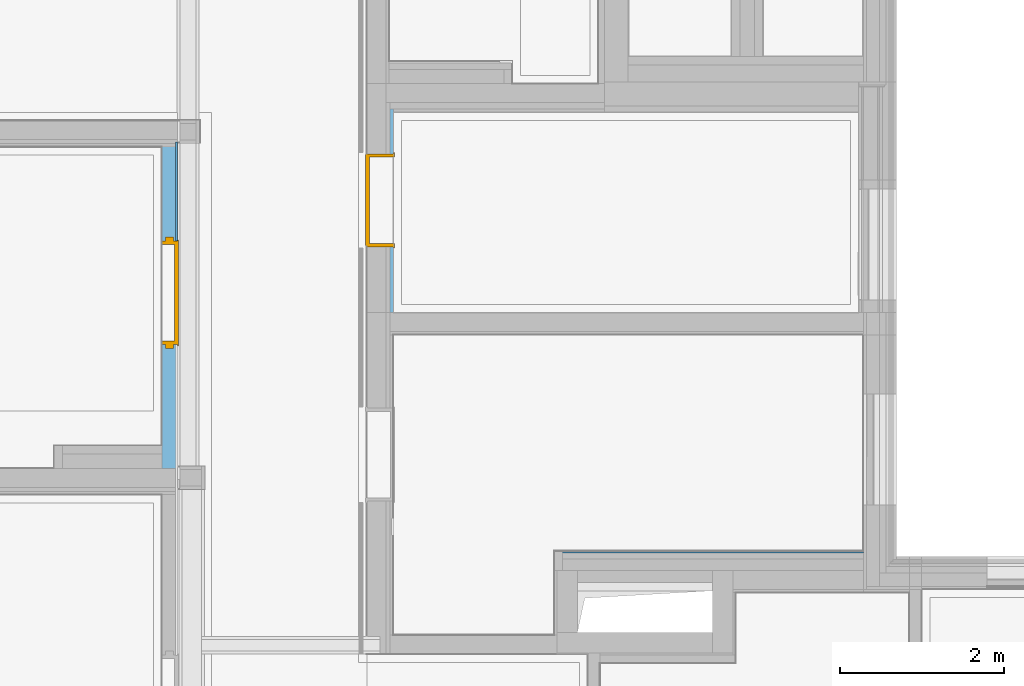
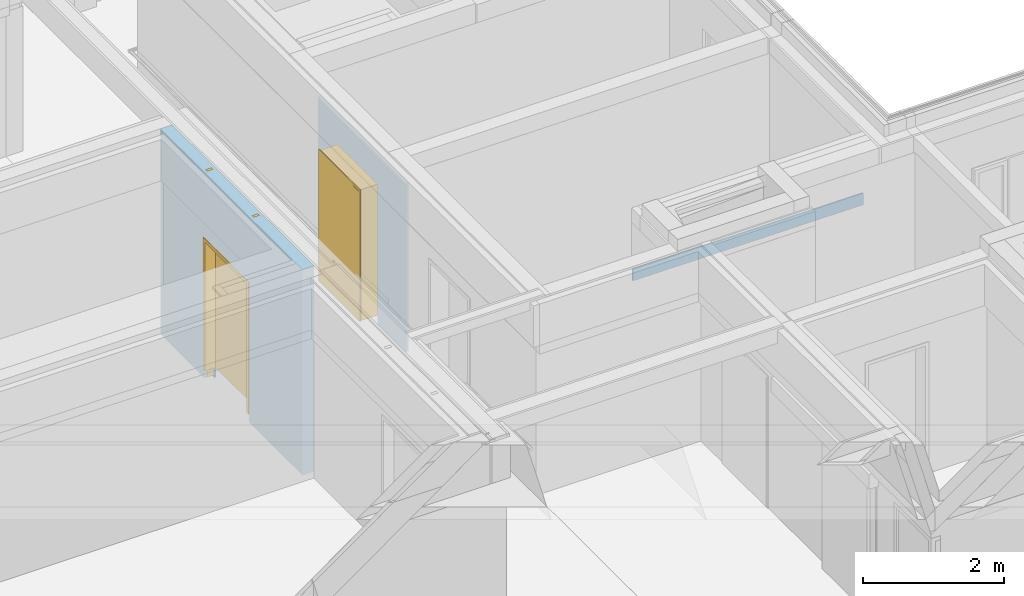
# One storey, part 89 of 222: 2 doors, 2 walls, 2 openings, plus 2 elements that do not belong to this part.
"""IFC4 building model written with IfcOpenShell, lengths in metres."""

from ifc_helpers import new_model, entity, si_unit, converted_unit, derived_unit, frame, frame_2d, origin, origin_with_axes, place, context, subcontext, project, spatial, polyline, rectangle, outline, extrude, faceted_brep, source, transform, mapped, material, type_object, element, fill, save


model = new_model("IFC4")

# Units and contexts
model_context = context("Model", 3, precision=1e-05, world=origin())
body_context = subcontext(model_context, "Body", "Model", "MODEL_VIEW")
ifc_project = project(units=[si_unit("LENGTHUNIT", "METRE"), si_unit("AREAUNIT", "SQUARE_METRE"), si_unit("VOLUMEUNIT", "CUBIC_METRE"), si_unit("MASSUNIT", "GRAM", prefix="KILO"), converted_unit("PLANEANGLEUNIT", "DEGREE", entity("IfcPlaneAngleMeasure", 0.0174532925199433), si_unit("PLANEANGLEUNIT", "RADIAN"), dimensions=[0, 0, 0, 0, 0, 0, 0]), derived_unit("THERMALTRANSMITTANCEUNIT", [(si_unit("POWERUNIT", "WATT"), 1), (si_unit("THERMODYNAMICTEMPERATUREUNIT", "KELVIN"), -1), (si_unit("LENGTHUNIT", "METRE"), -2)]), derived_unit("VOLUMETRICFLOWRATEUNIT", [(si_unit("LENGTHUNIT", "METRE"), 3), (converted_unit("TIMEUNIT", "hour", entity("IfcTimeMeasure", 3600.0), si_unit("TIMEUNIT", "SECOND"), dimensions=[0, 0, 1, 0, 0, 0, 0]), -1), (si_unit("LENGTHUNIT", "METRE"), -1)])], contexts=[model_context])

# Site, building, storey
site_placement = place(None, origin())
site = spatial("IfcSite", under=ifc_project, at=site_placement, Name="Psychiatrie Neubau Wunstorf", CompositionType="ELEMENT")
building_placement = place(site_placement, origin())
building = spatial("IfcBuilding", under=site, at=building_placement, Name="Neubau H2 Stationsgebäude", CompositionType="ELEMENT")
storey_placement = place(building_placement, frame((0.0, 0.0, 3.6)))
storey = spatial("IfcBuildingStorey", under=building, at=storey_placement, Name="H2 Ebene +1", CompositionType="ELEMENT", Elevation=3.6)

# Wall, opening, door
ifc_material_1 = material(Name="WI-LB")
wall_1_placement = place(storey_placement, frame((38.2045, 13.4894966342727, 0.0), z_axis=(0.0, 0.0, 1.0), x_axis=(-2.92735065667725e-15, 1.0, 0.0)))
wall_1 = element("IfcWall", 1, at=wall_1_placement, inside=storey, material=ifc_material_1, context=body_context, shape_type="SweptSolid", body=[
    extrude(rectangle(XDim=2.48550941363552, YDim=0.04, at=frame_2d((1.24275470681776, 0.02), x_axis=(1.0, 0.0))), origin_with_axes(), (0.0, 0.0, 1.0), 2.9),
])
opening_1_placement = place(wall_1_placement, frame((1.93550336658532, 0.0400000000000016, 0.0), z_axis=(-5.6843418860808e-15, -1.0, 0.0), x_axis=(0.0, 0.0, 1.0)))
opening_1 = element("IfcOpeningElement", 2, at=opening_1_placement, cuts=wall_1, Name="Türöffnung", ObjectType="Opening", context=body_context, shape_type="SweptSolid", body=[
    extrude(outline(polyline([(2.41, 1.135), (2.41, 0.0), (0.0, 0.0), (0.0, 1.135), (2.41, 1.135)])), origin_with_axes(), (0.0, 0.0, 1.0), 0.04),
])
ifc_material_2 = material(Name="TI-1F-UZ-D")
door_type_1 = type_object("IfcDoorType", Name="SMT", OperationType="SINGLE_SWING_RIGHT", ParameterTakesPrecedence=False, PredefinedType="DOOR")
shared_shape_1 = source(origin_with_axes(), body_context, "Body", "Brep", [
    faceted_brep([(1.135, -0.0149999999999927, 2.41), (1.135, -0.0149999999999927, 0.15), (1.095, -0.0149999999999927, 0.15), (1.095, -0.0149999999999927, 2.41), (1.135, 0.337000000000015, 0.15), (1.135, 0.337000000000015, 2.41), (1.095, 0.337000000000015, 2.41), (1.095, 0.337000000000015, 0.15)], [[[0, 1, 2, 3]], [[4, 5, 6, 7]], [[1, 0, 5, 4]], [[2, 1, 4, 7]], [[3, 2, 7, 6]], [[0, 3, 6, 5]]], orient=[[False], [False], [False], [False], [False], [False]]),
    faceted_brep([(1.135, -0.0149999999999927, 2.425), (1.15, -0.0149999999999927, 2.425), (1.15, -0.0149999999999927, 0.15), (1.135, -0.0149999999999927, 0.15), (1.135, 0.0, 0.15), (1.15, 0.0, 0.15), (1.15, 0.0, 2.425), (1.135, 0.0, 2.425)], [[[0, 1, 2, 3]], [[4, 5, 6, 7]], [[3, 4, 7, 0]], [[2, 5, 4, 3]], [[1, 6, 5, 2]], [[0, 7, 6, 1]]], orient=[[False], [False], [False], [False], [False], [False]]),
    faceted_brep([(1.135, 0.322000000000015, 2.425), (1.15, 0.322000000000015, 2.425), (1.15, 0.322000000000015, 0.15), (1.135, 0.322000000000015, 0.15), (1.135, 0.337000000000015, 0.15), (1.15, 0.337000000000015, 0.15), (1.15, 0.337000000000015, 2.425), (1.135, 0.337000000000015, 2.425)], [[[0, 1, 2, 3]], [[4, 5, 6, 7]], [[3, 4, 7, 0]], [[2, 5, 4, 3]], [[1, 6, 5, 2]], [[0, 7, 6, 1]]], orient=[[False], [False], [False], [False], [False], [False]]),
    faceted_brep([(0.0399999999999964, -0.0149999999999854, 2.41), (0.0399999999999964, -0.0149999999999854, 0.15), (0.0, -0.0149999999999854, 0.15), (0.0, -0.0149999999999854, 2.41), (0.04, 0.337000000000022, 0.15), (0.04, 0.337000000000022, 2.41), (0.0, 0.337000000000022, 2.41), (0.0, 0.337000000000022, 0.15)], [[[0, 1, 2, 3]], [[4, 5, 6, 7]], [[1, 0, 5, 4]], [[2, 1, 4, 7]], [[3, 2, 7, 6]], [[0, 3, 6, 5]]], orient=[[False], [False], [False], [False], [False], [False]]),
    faceted_brep([(0.0, -0.0149999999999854, 2.425), (0.0, -0.0149999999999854, 0.15), (-0.0150000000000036, -0.0149999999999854, 0.15), (-0.0150000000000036, -0.0149999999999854, 2.425), (0.0, 0.0, 0.15), (0.0, 0.0, 2.425), (-0.0150000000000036, 0.0, 2.425), (-0.0150000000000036, 0.0, 0.15)], [[[0, 1, 2, 3]], [[4, 5, 6, 7]], [[1, 0, 5, 4]], [[2, 1, 4, 7]], [[3, 2, 7, 6]], [[0, 3, 6, 5]]], orient=[[False], [False], [False], [False], [False], [False]]),
    faceted_brep([(0.0, 0.322000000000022, 2.425), (0.0, 0.322000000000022, 0.15), (-0.0150000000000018, 0.322000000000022, 0.15), (-0.0150000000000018, 0.322000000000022, 2.425), (0.0, 0.337000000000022, 0.15), (0.0, 0.337000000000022, 2.425), (-0.015, 0.337000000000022, 2.425), (-0.015, 0.337000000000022, 0.15)], [[[0, 1, 2, 3]], [[4, 5, 6, 7]], [[1, 0, 5, 4]], [[2, 1, 4, 7]], [[3, 2, 7, 6]], [[0, 3, 6, 5]]], orient=[[False], [False], [False], [False], [False], [False]]),
    faceted_brep([(1.095, -0.0149999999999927, 2.41), (1.095, -0.0149999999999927, 2.37), (0.0399999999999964, -0.0149999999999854, 2.37), (0.0399999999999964, -0.0149999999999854, 2.41), (1.095, 0.337000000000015, 2.37), (1.095, 0.337000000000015, 2.41), (0.04, 0.337000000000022, 2.41), (0.04, 0.337000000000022, 2.37)], [[[0, 1, 2, 3]], [[4, 5, 6, 7]], [[1, 0, 5, 4]], [[2, 1, 4, 7]], [[3, 2, 7, 6]], [[0, 3, 6, 5]]], orient=[[False], [False], [False], [False], [False], [False]]),
    faceted_brep([(1.135, -0.0149999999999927, 2.425), (1.135, -0.0149999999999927, 2.41), (0.0, -0.0149999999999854, 2.41), (0.0, -0.0149999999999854, 2.425), (1.135, 0.0, 2.41), (1.135, 0.0, 2.425), (0.0, 0.0, 2.425), (0.0, 0.0, 2.41)], [[[0, 1, 2, 3]], [[4, 5, 6, 7]], [[1, 0, 5, 4]], [[2, 1, 4, 7]], [[3, 2, 7, 6]], [[0, 3, 6, 5]]], orient=[[False], [False], [False], [False], [False], [False]]),
    faceted_brep([(1.135, 0.322000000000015, 2.425), (1.135, 0.322000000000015, 2.41), (0.0, 0.322000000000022, 2.41), (0.0, 0.322000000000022, 2.425), (1.135, 0.337000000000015, 2.41), (1.135, 0.337000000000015, 2.425), (0.0, 0.337000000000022, 2.425), (0.0, 0.337000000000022, 2.41)], [[[0, 1, 2, 3]], [[4, 5, 6, 7]], [[1, 0, 5, 4]], [[2, 1, 4, 7]], [[3, 2, 7, 6]], [[0, 3, 6, 5]]], orient=[[False], [False], [False], [False], [False], [False]]),
    faceted_brep([(1.11, 0.288000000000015, 2.385), (1.11, 0.288000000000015, 0.15), (0.0249999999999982, 0.288000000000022, 0.15), (0.0249999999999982, 0.288000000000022, 2.385), (1.11, 0.338000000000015, 0.15), (1.11, 0.338000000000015, 2.385), (0.025, 0.338000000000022, 2.385), (0.025, 0.338000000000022, 0.15)], [[[0, 1, 2, 3]], [[4, 5, 6, 7]], [[1, 0, 5, 4]], [[2, 1, 4, 7]], [[3, 2, 7, 6]], [[0, 3, 6, 5]]], orient=[[False], [False], [False], [False], [False], [False]]),
])
door_1_placement = place(opening_1_placement, frame((0.0, 1.135, 0.0400000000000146), z_axis=(1.0, 0.0, 0.0), x_axis=(0.0, -1.0, -9.16752657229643e-15)))
door_1 = element("IfcDoor", 3, at=door_1_placement, inside=storey, type_object=door_type_1, material=ifc_material_2, Name="SMT", OverallHeight=2.41, OverallWidth=1.135, context=body_context, shape_type="MappedRepresentation", body=[
    mapped(shared_shape_1, transform((0.0, 0.0, 0.0), x_axis=(1.0, 0.0, 0.0), y_axis=(0.0, 1.0, 0.0), z_axis=(0.0, 0.0, 1.0), scale=1.0)),
])
fill(opening_1, door_1)

# Wall
wall_2_placement = place(storey_placement, frame((40.1790000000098, 10.5559937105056, 2.3)))
element("IfcWall", 4, at=wall_2_placement, inside=storey, Name="WV 1.1", context=body_context, shape_type="Brep", body=[
    faceted_brep([(3.76, 0.0, 0.0), (3.76, 0.025, 0.0), (0.0, 0.0249999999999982, 0.0), (0.0, 0.0, 0.0), (3.76, 0.025, 0.2), (3.76, 0.0, 0.2), (0.0, 0.0, 0.2), (0.0, 0.0249999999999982, 0.2)], [[[0, 1, 2, 3]], [[4, 5, 6, 7]], [[1, 0, 5, 4]], [[2, 1, 4, 7]], [[3, 2, 7, 6]], [[0, 3, 6, 5]]], orient=[[False], [False], [False], [False], [False], [False]]),
])

# Wall, opening, door
ifc_material_3 = material(Name="WI-LB")
wall_3_placement = place(storey_placement, frame((35.57, 11.589557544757, 0.0), z_axis=(0.0, 0.0, 1.0), x_axis=(0.0, 1.0, 0.0)))
wall_3 = element("IfcWall", 5, at=wall_3_placement, inside=storey, material=ifc_material_3, context=body_context, shape_type="SweptSolid", body=[
    extrude(rectangle(XDim=4.01094154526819, YDim=0.19, at=frame_2d((2.0054707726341, 0.095), x_axis=(1.0, 0.0))), origin_with_axes(), (0.0, 0.0, 1.0), 3.55),
])
opening_2_placement = place(wall_3_placement, frame((2.77044245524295, 0.19, 0.0), z_axis=(0.0, -1.0, 0.0), x_axis=(0.0, 0.0, 1.0)))
opening_2 = element("IfcOpeningElement", 6, at=opening_2_placement, cuts=wall_3, Name="Türöffnung", ObjectType="Opening", context=body_context, shape_type="SweptSolid", body=[
    extrude(outline(polyline([(2.41, 1.26), (2.41, 0.0), (0.0, 0.0), (0.0, 1.26), (2.41, 1.26)])), origin_with_axes(), (0.0, 0.0, 1.0), 0.19),
])
ifc_material_4 = material(Name="TI-1F-UZ-D")
door_type_2 = type_object("IfcDoorType", Name="SMT", OperationType="SINGLE_SWING_RIGHT", ParameterTakesPrecedence=False, PredefinedType="DOOR")
shared_shape_2 = source(origin_with_axes(), body_context, "Body", "Brep", [
    faceted_brep([(-0.0499999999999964, 0.0449999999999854, 0.0), (0.0, 0.0449999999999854, 0.0), (0.0, 0.144999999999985, 0.0), (-0.0499999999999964, 0.144999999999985, 0.0), (-0.0499999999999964, 0.144999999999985, 3.55), (0.0, 0.144999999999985, 3.55), (0.0, 0.0449999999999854, 3.55), (-0.0499999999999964, 0.0449999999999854, 3.55)], [[[0, 1, 2, 3]], [[4, 5, 6, 7]], [[3, 4, 7, 0]], [[2, 5, 4, 3]], [[1, 6, 5, 2]], [[0, 7, 6, 1]]], orient=[[False], [False], [False], [False], [False], [False]]),
    faceted_brep([(1.26, 0.0449999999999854, 0.0), (1.31, 0.0449999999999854, 0.0), (1.31, 0.144999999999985, 0.0), (1.26, 0.144999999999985, 0.0), (1.26, 0.144999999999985, 3.55), (1.31, 0.144999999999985, 3.55), (1.31, 0.0449999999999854, 3.55), (1.26, 0.0449999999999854, 3.55)], [[[0, 1, 2, 3]], [[4, 5, 6, 7]], [[3, 4, 7, 0]], [[2, 5, 4, 3]], [[1, 6, 5, 2]], [[0, 7, 6, 1]]], orient=[[False], [False], [False], [False], [False], [False]]),
    faceted_brep([(0.0, 0.0449999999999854, 2.41), (1.26, 0.0449999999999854, 2.41), (1.26, 0.144999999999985, 2.41), (0.0, 0.144999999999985, 2.41), (0.0, 0.144999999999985, 2.46), (1.26, 0.144999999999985, 2.46), (1.26, 0.0449999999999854, 2.46), (0.0, 0.0449999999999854, 2.46)], [[[0, 1, 2, 3]], [[4, 5, 6, 7]], [[3, 4, 7, 0]], [[2, 5, 4, 3]], [[1, 6, 5, 2]], [[0, 7, 6, 1]]], orient=[[False], [False], [False], [False], [False], [False]]),
])
shared_shape_3 = source(origin_with_axes(), body_context, "Body", "Brep", [
    faceted_brep([(1.26, -0.0150000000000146, 2.41), (1.26, -0.0150000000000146, 0.15), (1.22, -0.0150000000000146, 0.15), (1.22, -0.0150000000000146, 2.41), (1.26, 0.204999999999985, 0.15), (1.26, 0.204999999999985, 2.41), (1.22, 0.204999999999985, 2.41), (1.22, 0.204999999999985, 0.15)], [[[0, 1, 2, 3]], [[4, 5, 6, 7]], [[1, 0, 5, 4]], [[2, 1, 4, 7]], [[3, 2, 7, 6]], [[0, 3, 6, 5]]], orient=[[False], [False], [False], [False], [False], [False]]),
    faceted_brep([(1.26, -0.0150000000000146, 2.425), (1.275, -0.0150000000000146, 2.425), (1.275, -0.0150000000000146, 0.15), (1.26, -0.0150000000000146, 0.15), (1.26, 0.0, 0.15), (1.275, 0.0, 0.15), (1.275, 0.0, 2.425), (1.26, 0.0, 2.425)], [[[0, 1, 2, 3]], [[4, 5, 6, 7]], [[3, 4, 7, 0]], [[2, 5, 4, 3]], [[1, 6, 5, 2]], [[0, 7, 6, 1]]], orient=[[False], [False], [False], [False], [False], [False]]),
    faceted_brep([(1.26, 0.189999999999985, 2.425), (1.275, 0.189999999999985, 2.425), (1.275, 0.189999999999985, 0.15), (1.26, 0.189999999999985, 0.15), (1.26, 0.204999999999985, 0.15), (1.275, 0.204999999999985, 0.15), (1.275, 0.204999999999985, 2.425), (1.26, 0.204999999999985, 2.425)], [[[0, 1, 2, 3]], [[4, 5, 6, 7]], [[3, 4, 7, 0]], [[2, 5, 4, 3]], [[1, 6, 5, 2]], [[0, 7, 6, 1]]], orient=[[False], [False], [False], [False], [False], [False]]),
    faceted_brep([(0.0400000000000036, -0.0150000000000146, 2.41), (0.0400000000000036, -0.0150000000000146, 0.15), (0.0, -0.0150000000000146, 0.15), (0.0, -0.0150000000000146, 2.41), (0.0400000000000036, 0.204999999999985, 0.15), (0.0400000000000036, 0.204999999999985, 2.41), (0.0, 0.204999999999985, 2.41), (0.0, 0.204999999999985, 0.15)], [[[0, 1, 2, 3]], [[4, 5, 6, 7]], [[1, 0, 5, 4]], [[2, 1, 4, 7]], [[3, 2, 7, 6]], [[0, 3, 6, 5]]], orient=[[False], [False], [False], [False], [False], [False]]),
    faceted_brep([(0.0, -0.0150000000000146, 2.425), (0.0, -0.0150000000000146, 0.15), (-0.0149999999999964, -0.0150000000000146, 0.15), (-0.0149999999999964, -0.0150000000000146, 2.425), (0.0, 0.0, 0.15), (0.0, 0.0, 2.425), (-0.0149999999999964, 0.0, 2.425), (-0.0149999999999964, 0.0, 0.15)], [[[0, 1, 2, 3]], [[4, 5, 6, 7]], [[1, 0, 5, 4]], [[2, 1, 4, 7]], [[3, 2, 7, 6]], [[0, 3, 6, 5]]], orient=[[False], [False], [False], [False], [False], [False]]),
    faceted_brep([(0.0, 0.189999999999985, 2.425), (0.0, 0.189999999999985, 0.15), (-0.0149999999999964, 0.189999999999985, 0.15), (-0.0149999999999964, 0.189999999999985, 2.425), (0.0, 0.204999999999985, 0.15), (0.0, 0.204999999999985, 2.425), (-0.0149999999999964, 0.204999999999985, 2.425), (-0.0149999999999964, 0.204999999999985, 0.15)], [[[0, 1, 2, 3]], [[4, 5, 6, 7]], [[1, 0, 5, 4]], [[2, 1, 4, 7]], [[3, 2, 7, 6]], [[0, 3, 6, 5]]], orient=[[False], [False], [False], [False], [False], [False]]),
    faceted_brep([(1.22, -0.0150000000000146, 2.41), (1.22, -0.0150000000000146, 2.37), (0.0400000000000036, -0.0150000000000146, 2.37), (0.0400000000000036, -0.0150000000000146, 2.41), (1.22, 0.204999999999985, 2.37), (1.22, 0.204999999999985, 2.41), (0.0400000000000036, 0.204999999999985, 2.41), (0.0400000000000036, 0.204999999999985, 2.37)], [[[0, 1, 2, 3]], [[4, 5, 6, 7]], [[1, 0, 5, 4]], [[2, 1, 4, 7]], [[3, 2, 7, 6]], [[0, 3, 6, 5]]], orient=[[False], [False], [False], [False], [False], [False]]),
    faceted_brep([(1.26, -0.0150000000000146, 2.425), (1.26, -0.0150000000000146, 2.41), (0.0, -0.0150000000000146, 2.41), (0.0, -0.0150000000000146, 2.425), (1.26, 0.0, 2.41), (1.26, 0.0, 2.425), (0.0, 0.0, 2.425), (0.0, 0.0, 2.41)], [[[0, 1, 2, 3]], [[4, 5, 6, 7]], [[1, 0, 5, 4]], [[2, 1, 4, 7]], [[3, 2, 7, 6]], [[0, 3, 6, 5]]], orient=[[False], [False], [False], [False], [False], [False]]),
    faceted_brep([(1.26, 0.189999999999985, 2.425), (1.26, 0.189999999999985, 2.41), (0.0, 0.189999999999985, 2.41), (0.0, 0.189999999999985, 2.425), (1.26, 0.204999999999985, 2.41), (1.26, 0.204999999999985, 2.425), (0.0, 0.204999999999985, 2.425), (0.0, 0.204999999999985, 2.41)], [[[0, 1, 2, 3]], [[4, 5, 6, 7]], [[1, 0, 5, 4]], [[2, 1, 4, 7]], [[3, 2, 7, 6]], [[0, 3, 6, 5]]], orient=[[False], [False], [False], [False], [False], [False]]),
    faceted_brep([(1.235, 0.155999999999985, 2.385), (1.235, 0.155999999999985, 0.15), (0.0250000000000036, 0.155999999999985, 0.15), (0.0250000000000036, 0.155999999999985, 2.385), (1.235, 0.205999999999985, 0.15), (1.235, 0.205999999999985, 2.385), (0.0250000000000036, 0.205999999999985, 2.385), (0.0250000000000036, 0.205999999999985, 0.15)], [[[0, 1, 2, 3]], [[4, 5, 6, 7]], [[1, 0, 5, 4]], [[2, 1, 4, 7]], [[3, 2, 7, 6]], [[0, 3, 6, 5]]], orient=[[False], [False], [False], [False], [False], [False]]),
])
door_2_placement = place(opening_2_placement, frame((0.0, 0.0, 0.0), z_axis=(1.0, 0.0, 0.0), x_axis=(0.0, 1.0, 0.0)))
door_2 = element("IfcDoor", 7, at=door_2_placement, inside=storey, type_object=door_type_2, material=ifc_material_4, Name="SMT", OverallHeight=2.41, OverallWidth=1.26, context=body_context, shape_type="MappedRepresentation", body=[
    mapped(shared_shape_2, transform((0.0, 0.0, 0.0), x_axis=(1.0, 0.0, 0.0), y_axis=(0.0, 1.0, 0.0), z_axis=(0.0, 0.0, 1.0), scale=1.0)),
    mapped(shared_shape_3, transform((0.0, 0.0, 0.0), x_axis=(1.0, 0.0, 0.0), y_axis=(0.0, 1.0, 0.0), z_axis=(0.0, 0.0, 1.0), scale=1.0)),
])
fill(opening_2, door_2)

# Wall
wall_4_placement = place(storey_placement, frame((35.545, 14.36, -0.05)))
element("IfcWall", 8, at=wall_4_placement, inside=storey, Name="WV 1.1", context=body_context, shape_type="Brep", body=[
    faceted_brep([(0.0, 0.0, 0.0), (0.025, 0.0, 0.0), (0.025, 1.21, 0.0), (0.0, 1.21, 0.0), (0.025, 0.0, 0.25), (0.0, 0.0, 0.25), (0.0, 1.21, 0.25), (0.025, 1.21, 0.25)], [[[0, 1, 2, 3]], [[4, 5, 6, 7]], [[1, 0, 5, 4]], [[2, 1, 4, 7]], [[3, 2, 7, 6]], [[0, 3, 6, 5]]], orient=[[False], [False], [False], [False], [False], [False]]),
])

save(model, "model.ifc")
